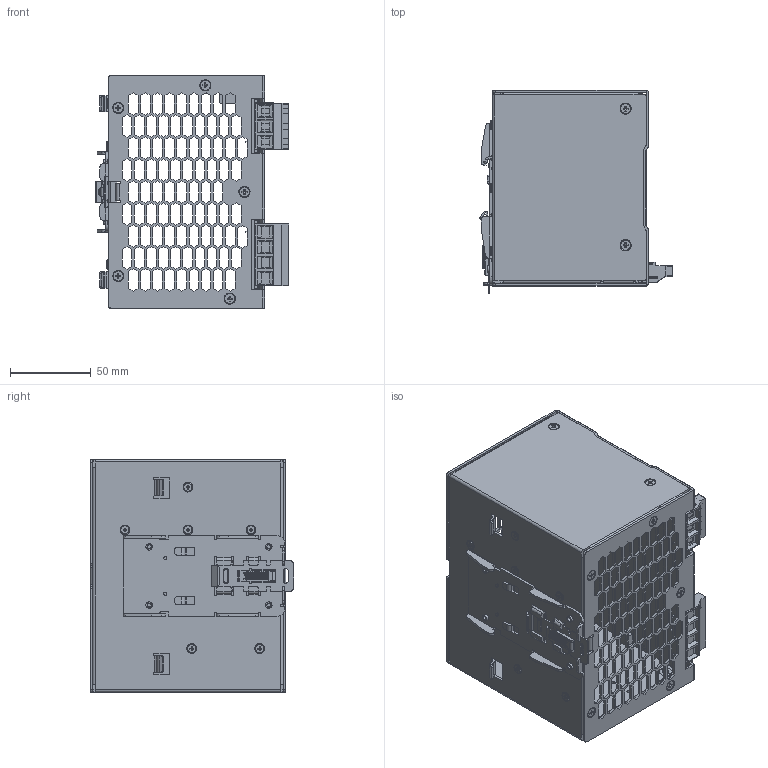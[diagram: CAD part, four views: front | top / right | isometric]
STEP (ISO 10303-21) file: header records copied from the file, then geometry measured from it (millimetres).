
FILE_DESCRIPTION((''),'2;1');
FILE_NAME('EOE13010360_ASM','2013-04-25T',('Manop.Pr'),(''),'PRO/ENGINEER BY PARAMETRIC TECHNOLOGY CORPORATION, 2010180','PRO/ENGINEER BY PARAMETRIC TECHNOLOGY CORPORATION, 2010180','');
FILE_SCHEMA(('CONFIG_CONTROL_DESIGN','SHAPE_APPEARANCE_LAYERS_GROUPS'));
Products named in the file (22): 330309110303; 324472020101; 330309120101; 326313420000; 3268209100; 2958054301_PWB; 3461420800; EE_VR550_0604101305; ASSY_PWB_EOE13010360_ASM; 2968146601_DCT-1466; 3076698146; 3076698046; EE_LED350; ASSY_DCT-1466_ASM; 3100000600; 3103000600; 3105039100; 3461303000; 3460088100; 3462026200; ASSY_LATCH_50X100_ASM; EOE13010360_ASM
Assembly tree (41 placements, depth 3):
  EOE13010360_ASM
    330309110303
    324472020101
    330309120101
    326313420000
    3268209100
    ASSY_PWB_EOE13010360_ASM
      2958054301_PWB
      3461420800  x3
      EE_VR550_0604101305
    ASSY_DCT-1466_ASM
      2968146601_DCT-1466
      3076698146
      3076698046
      EE_LED350
    3100000600  x5
    3103000600  x10
    3105039100  x6
    ASSY_LATCH_50X100_ASM
      3461303000
      3460088100
      3462026200
Bounding box: 119.74 x 126 x 144.07 mm (x, y, z)
Volume: 187906.2 mm3; surface area: 344177.7 mm2
Topology: 40 solids, 40 shells, 5204 faces, 13442 edges, 8414 vertices
Faces by surface type: plane 3640, cylinder 734, extrusion 314, cone 230, bspline 212, torus 64, sphere 10
Entity records: 178826 total; most frequent: CARTESIAN_POINT 32944, ORIENTED_EDGE 23036, DIRECTION 20658, PRESENTATION_STYLE_ASSIGNMENT 11574, EDGE_CURVE 11518, STYLED_ITEM 11302, CURVE_STYLE 11284, VECTOR 9574
